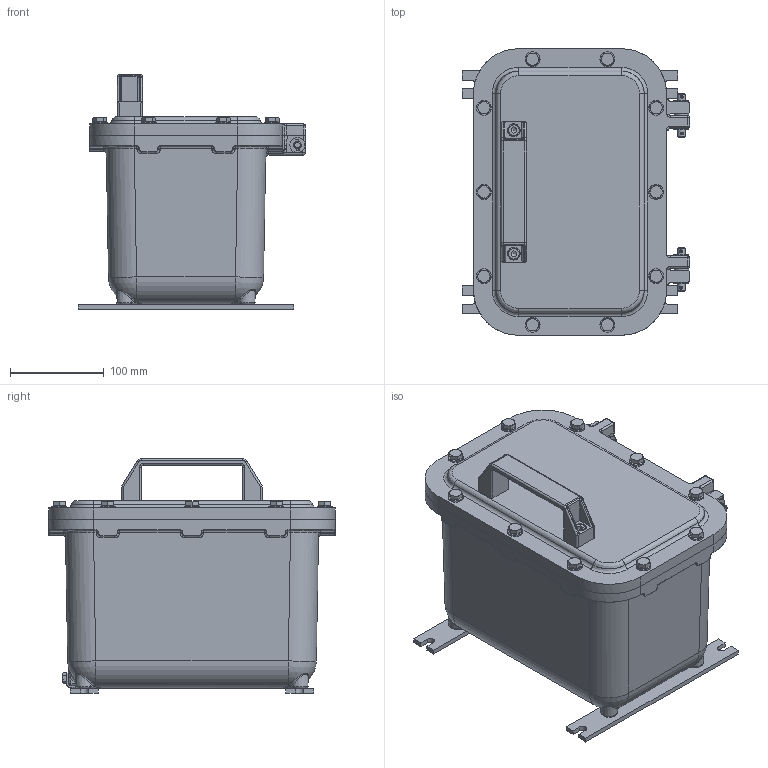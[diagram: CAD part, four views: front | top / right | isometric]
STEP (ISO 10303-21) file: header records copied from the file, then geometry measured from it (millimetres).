
FILE_DESCRIPTION((''),'2;1');
FILE_NAME('\\file-server\cortem_klient\INVENTOR БАЗА МОДЕЛЕЙ\Актуальная база моделей для отдела продаж\ЩОРВ-Н\ЩОРВ-Н312120.stp','2019-04-10T14:50:35',('V.E.Dolguev'),(''),'Autodesk Inventor 2012','Autodesk Inventor 2012','');
FILE_SCHEMA(('AUTOMOTIVE_DESIGN { 1 0 10303 214 1 1 1 1 }'));
Length unit declared in the file: millimetre
Products named in the file (1): ЩОРВ-Н312120
Bounding box: 242.8 x 306 x 250.5 mm (x, y, z)
Surface area: 636624.3 mm2 (no closed solid volume)
Topology: 0 solids, 51 shells, 1639 faces, 3818 edges, 2338 vertices
Faces by surface type: plane 613, cylinder 446, bspline 336, cone 142, sphere 58, torus 44
Full cylindrical faces by diameter (mm): 2.1 x4, 3 x8, 4.9 x6, 4.917 x1, 6 x3, 6.4 x1, 6.5 x2, 6.6 x14, 6.647 x2, 7.323 x10, 7.9 x3, 8 x18, 8.4 x16, 8.5 x16, 9 x4, 11.4 x10, 12 x1, 13 x2, 13.5 x2, 15.24 x4, 16 x16
Entity records: 64911 total; most frequent: CARTESIAN_POINT 28719, ORIENTED_EDGE 7014, DIRECTION 6608, EDGE_CURVE 3507, AXIS2_PLACEMENT_3D 2524, VERTEX_POINT 2285, EDGE_LOOP 2066, FACE_OUTER_BOUND 1639
